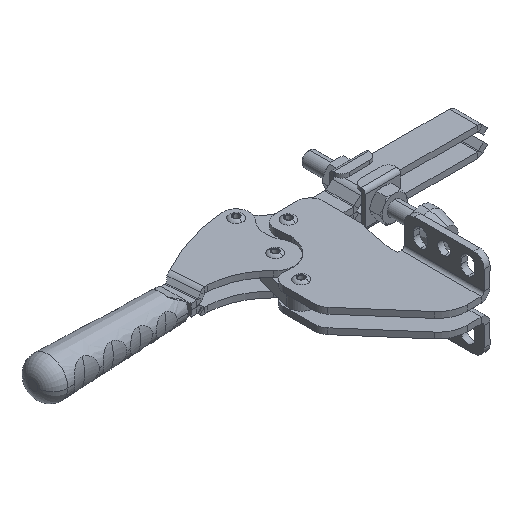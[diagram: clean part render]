
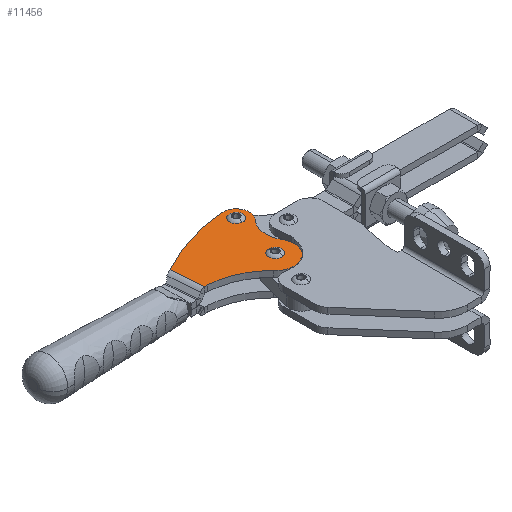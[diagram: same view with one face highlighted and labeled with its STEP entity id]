
A CAD part, isometric view. The second image highlights one B-rep face of the part: STEP entity #11456.
In plain terms, the highlighted planar face has unit normal (0, 0, 1) as drawn and (0, 0, -1) by its records, which use the part's own axes.
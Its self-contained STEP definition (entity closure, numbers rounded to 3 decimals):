
#100 = AXIS2_PLACEMENT_3D ( 'NONE', #11374, #14073, #8353 ) ;
#321 = DIRECTION ( 'NONE',  ( 0., 0., -1. ) ) ;
#477 = DIRECTION ( 'NONE',  ( 0., 0., -1. ) ) ;
#484 = VECTOR ( 'NONE', #4851, 1000. ) ;
#574 = VERTEX_POINT ( 'NONE', #6451 ) ;
#1007 = EDGE_CURVE ( 'NONE', #6233, #11225, #2596, .T. ) ;
#1021 = VERTEX_POINT ( 'NONE', #6473 ) ;
#1055 = DIRECTION ( 'NONE',  ( 0., 0., 1. ) ) ;
#1327 = EDGE_CURVE ( 'NONE', #7982, #11354, #15892, .T. ) ;
#1384 = DIRECTION ( 'NONE',  ( 1., 0., 0. ) ) ;
#1509 = CIRCLE ( 'NONE', #12723, 18. ) ;
#1568 = CARTESIAN_POINT ( 'NONE',  ( 12.219, -33.042, -4. ) ) ;
#1657 = CARTESIAN_POINT ( 'NONE',  ( 0., 0., -4. ) ) ;
#1944 = DIRECTION ( 'NONE',  ( 1., 0., 0. ) ) ;
#1951 = CARTESIAN_POINT ( 'NONE',  ( 51.045, -2.745, -4. ) ) ;
#2316 = DIRECTION ( 'NONE',  ( 0., 0., 1. ) ) ;
#2596 = CIRCLE ( 'NONE', #12026, 46.679 ) ;
#3181 = VERTEX_POINT ( 'NONE', #4855 ) ;
#3227 = DIRECTION ( 'NONE',  ( 0., 0., -1. ) ) ;
#3474 = EDGE_CURVE ( 'NONE', #3181, #6527, #3937, .T. ) ;
#3562 = DIRECTION ( 'NONE',  ( 1., 0., 0. ) ) ;
#3731 = CARTESIAN_POINT ( 'NONE',  ( -0.761, 0., -4. ) ) ;
#3937 = CIRCLE ( 'NONE', #100, 9. ) ;
#3945 = DIRECTION ( 'NONE',  ( 1., 0., 0. ) ) ;
#4208 = CARTESIAN_POINT ( 'NONE',  ( -2.574, -27.571, -4. ) ) ;
#4362 = CARTESIAN_POINT ( 'NONE',  ( -18.903, -19.997, -4. ) ) ;
#4493 = DIRECTION ( 'NONE',  ( 0., 0., -1. ) ) ;
#4560 = AXIS2_PLACEMENT_3D ( 'NONE', #8844, #5970, #3562 ) ;
#4669 = AXIS2_PLACEMENT_3D ( 'NONE', #7110, #11233, #14208 ) ;
#4715 = CARTESIAN_POINT ( 'NONE',  ( 55.329, -70.895, -4. ) ) ;
#4851 = DIRECTION ( 'NONE',  ( 0., 1., 0. ) ) ;
#4855 = CARTESIAN_POINT ( 'NONE',  ( -6.808, -6.666, -4. ) ) ;
#5084 = CARTESIAN_POINT ( 'NONE',  ( 19.673, -40.768, -4. ) ) ;
#5088 = VERTEX_POINT ( 'NONE', #4208 ) ;
#5240 = CIRCLE ( 'NONE', #6439, 3. ) ;
#5792 = CIRCLE ( 'NONE', #15541, 3. ) ;
#5795 = DIRECTION ( 'NONE',  ( 0., 0., 1. ) ) ;
#5924 = EDGE_LOOP ( 'NONE', ( #17188, #6255 ) ) ;
#5970 = DIRECTION ( 'NONE',  ( 0., 0., 1. ) ) ;
#6015 = CARTESIAN_POINT ( 'NONE',  ( 50.858, -48.887, -4. ) ) ;
#6080 = EDGE_CURVE ( 'NONE', #11354, #7982, #5240, .T. ) ;
#6155 = CARTESIAN_POINT ( 'NONE',  ( 51.045, 0., -4. ) ) ;
#6180 = CARTESIAN_POINT ( 'NONE',  ( 2.239, 0., -4. ) ) ;
#6233 = VERTEX_POINT ( 'NONE', #13271 ) ;
#6246 = AXIS2_PLACEMENT_3D ( 'NONE', #6756, #12636, #1384 ) ;
#6255 = ORIENTED_EDGE ( 'NONE', *, *, #6080, .T. ) ;
#6439 = AXIS2_PLACEMENT_3D ( 'NONE', #17092, #5795, #10314 ) ;
#6451 = CARTESIAN_POINT ( 'NONE',  ( -0.761, 9., -4. ) ) ;
#6453 = CARTESIAN_POINT ( 'NONE',  ( 51.045, -24.573, -4. ) ) ;
#6473 = CARTESIAN_POINT ( 'NONE',  ( -3.761, 0., -4. ) ) ;
#6527 = VERTEX_POINT ( 'NONE', #7364 ) ;
#6664 = ORIENTED_EDGE ( 'NONE', *, *, #1007, .T. ) ;
#6756 = CARTESIAN_POINT ( 'NONE',  ( -0.761, -111.127, -4. ) ) ;
#7063 = ORIENTED_EDGE ( 'NONE', *, *, #9060, .T. ) ;
#7110 = CARTESIAN_POINT ( 'NONE',  ( 9.219, -33.042, -4. ) ) ;
#7112 = ORIENTED_EDGE ( 'NONE', *, *, #3474, .T. ) ;
#7159 = EDGE_LOOP ( 'NONE', ( #7601, #7063 ) ) ;
#7364 = CARTESIAN_POINT ( 'NONE',  ( -9.761, 0., -4. ) ) ;
#7374 = DIRECTION ( 'NONE',  ( 1., 0., 0. ) ) ;
#7444 = VERTEX_POINT ( 'NONE', #6180 ) ;
#7453 = LINE ( 'NONE', #6155, #484 ) ;
#7525 = CIRCLE ( 'NONE', #12814, 13. ) ;
#7601 = ORIENTED_EDGE ( 'NONE', *, *, #15896, .T. ) ;
#7629 = VERTEX_POINT ( 'NONE', #6453 ) ;
#7726 = CARTESIAN_POINT ( 'NONE',  ( 6.219, -33.042, -4. ) ) ;
#7729 = AXIS2_PLACEMENT_3D ( 'NONE', #6015, #477, #12936 ) ;
#7982 = VERTEX_POINT ( 'NONE', #7726 ) ;
#8022 = CARTESIAN_POINT ( 'NONE',  ( 9.219, -33.042, -4. ) ) ;
#8038 = AXIS2_PLACEMENT_3D ( 'NONE', #1657, #3227, #9966 ) ;
#8307 = ORIENTED_EDGE ( 'NONE', *, *, #14430, .T. ) ;
#8346 = CIRCLE ( 'NONE', #12758, 13. ) ;
#8353 = DIRECTION ( 'NONE',  ( 1., 0., 0. ) ) ;
#8844 = CARTESIAN_POINT ( 'NONE',  ( -0.761, 0., -4. ) ) ;
#8890 = CIRCLE ( 'NONE', #10640, 9. ) ;
#8902 = EDGE_CURVE ( 'NONE', #7629, #15026, #7453, .T. ) ;
#9060 = EDGE_CURVE ( 'NONE', #7444, #1021, #5792, .T. ) ;
#9636 = ORIENTED_EDGE ( 'NONE', *, *, #11074, .F. ) ;
#9939 = CARTESIAN_POINT ( 'NONE',  ( -0.761, 0., -4. ) ) ;
#9966 = DIRECTION ( 'NONE',  ( 1., 0., 0. ) ) ;
#10183 = CARTESIAN_POINT ( 'NONE',  ( 9.219, -33.042, -4. ) ) ;
#10233 = FACE_OUTER_BOUND ( 'NONE', #15682, .T. ) ;
#10314 = DIRECTION ( 'NONE',  ( 1., 0., 0. ) ) ;
#10578 = EDGE_CURVE ( 'NONE', #6527, #574, #8890, .T. ) ;
#10640 = AXIS2_PLACEMENT_3D ( 'NONE', #9939, #4493, #7374 ) ;
#10881 = EDGE_CURVE ( 'NONE', #5088, #3181, #1509, .T. ) ;
#11074 = EDGE_CURVE ( 'NONE', #6233, #7629, #11241, .T. ) ;
#11225 = VERTEX_POINT ( 'NONE', #5084 ) ;
#11233 = DIRECTION ( 'NONE',  ( 0., 0., 1. ) ) ;
#11241 = CIRCLE ( 'NONE', #7729, 24.315 ) ;
#11263 = DIRECTION ( 'NONE',  ( 0., 0., 1. ) ) ;
#11284 = EDGE_CURVE ( 'NONE', #574, #15026, #14202, .T. ) ;
#11354 = VERTEX_POINT ( 'NONE', #1568 ) ;
#11374 = CARTESIAN_POINT ( 'NONE',  ( -0.761, 0., -4. ) ) ;
#11456 = ADVANCED_FACE ( 'NONE', ( #11600, #15983, #10233 ), #15893, .T. ) ;
#11600 = FACE_BOUND ( 'NONE', #5924, .T. ) ;
#11843 = ORIENTED_EDGE ( 'NONE', *, *, #10578, .T. ) ;
#11912 = CIRCLE ( 'NONE', #4560, 3. ) ;
#12026 = AXIS2_PLACEMENT_3D ( 'NONE', #4715, #2316, #1944 ) ;
#12142 = ORIENTED_EDGE ( 'NONE', *, *, #10881, .T. ) ;
#12325 = EDGE_CURVE ( 'NONE', #15441, #5088, #8346, .T. ) ;
#12636 = DIRECTION ( 'NONE',  ( 0., 0., -1. ) ) ;
#12723 = AXIS2_PLACEMENT_3D ( 'NONE', #4362, #11263, #16669 ) ;
#12758 = AXIS2_PLACEMENT_3D ( 'NONE', #10183, #321, #14079 ) ;
#12814 = AXIS2_PLACEMENT_3D ( 'NONE', #8022, #16624, #3945 ) ;
#12868 = ORIENTED_EDGE ( 'NONE', *, *, #12325, .T. ) ;
#12936 = DIRECTION ( 'NONE',  ( 1., 0., 0. ) ) ;
#13089 = CARTESIAN_POINT ( 'NONE',  ( -3.781, -33.042, -4. ) ) ;
#13271 = CARTESIAN_POINT ( 'NONE',  ( 49.055, -24.639, -4. ) ) ;
#13875 = ORIENTED_EDGE ( 'NONE', *, *, #11284, .T. ) ;
#14073 = DIRECTION ( 'NONE',  ( 0., 0., -1. ) ) ;
#14079 = DIRECTION ( 'NONE',  ( 1., 0., 0. ) ) ;
#14202 = CIRCLE ( 'NONE', #6246, 120.127 ) ;
#14208 = DIRECTION ( 'NONE',  ( 1., 0., 0. ) ) ;
#14430 = EDGE_CURVE ( 'NONE', #11225, #15441, #7525, .T. ) ;
#15026 = VERTEX_POINT ( 'NONE', #1951 ) ;
#15105 = DIRECTION ( 'NONE',  ( 1., 0., 0. ) ) ;
#15441 = VERTEX_POINT ( 'NONE', #13089 ) ;
#15541 = AXIS2_PLACEMENT_3D ( 'NONE', #3731, #1055, #15105 ) ;
#15682 = EDGE_LOOP ( 'NONE', ( #9636, #6664, #8307, #12868, #12142, #7112, #11843, #13875, #18075 ) ) ;
#15892 = CIRCLE ( 'NONE', #4669, 3. ) ;
#15893 = PLANE ( 'NONE',  #8038 ) ;
#15896 = EDGE_CURVE ( 'NONE', #1021, #7444, #11912, .T. ) ;
#15983 = FACE_BOUND ( 'NONE', #7159, .T. ) ;
#16624 = DIRECTION ( 'NONE',  ( 0., 0., -1. ) ) ;
#16669 = DIRECTION ( 'NONE',  ( 1., 0., 0. ) ) ;
#17092 = CARTESIAN_POINT ( 'NONE',  ( 9.219, -33.042, -4. ) ) ;
#17188 = ORIENTED_EDGE ( 'NONE', *, *, #1327, .T. ) ;
#18075 = ORIENTED_EDGE ( 'NONE', *, *, #8902, .F. ) ;
